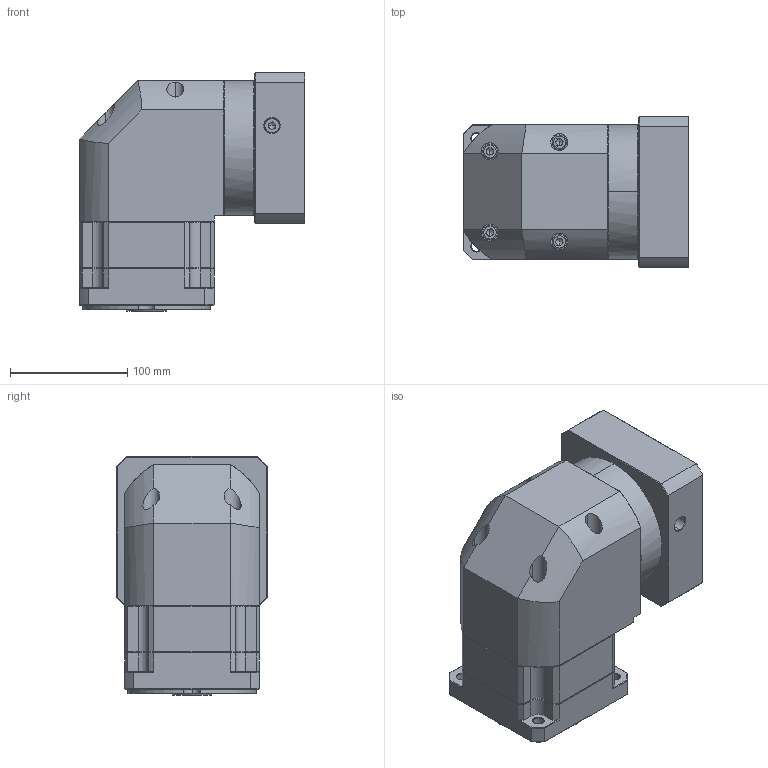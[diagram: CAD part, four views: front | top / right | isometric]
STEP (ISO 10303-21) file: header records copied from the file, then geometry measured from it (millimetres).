
FILE_DESCRIPTION (( 'STEP AP214' ), '1' );
FILE_NAME ('ZBR115A-K25-L1-P2-22-110-145-M8.step', '2023-08-26T12:42:22', ( '' ), ( '' ), 'SwSTEP 2.0', 'SolidWorks 2016', '' );
FILE_SCHEMA (( 'AUTOMOTIVE_DESIGN' ));
Length unit declared in the file: millimetre
Products named in the file (1): ZBR115A-K25-L1-P2-22-110-145-M8
Bounding box: 192.4 x 128 x 203 mm (x, y, z)
Volume: 2996758.9 mm3; surface area: 251715.3 mm2
Topology: 6 solids, 6 shells, 2325 faces, 6090 edges, 3869 vertices
Faces by surface type: plane 1132, bspline 416, cylinder 406, cone 363, torus 8
Entity records: 122698 total; most frequent: CARTESIAN_POINT 43290, ORIENTED_EDGE 12124, DIRECTION 9598, EDGE_CURVE 6062, VECTOR 3938, LINE 3938, VERTEX_POINT 3869, AXIS2_PLACEMENT_3D 2830
